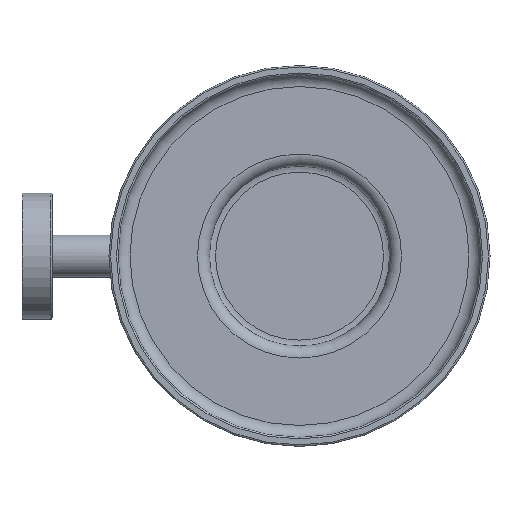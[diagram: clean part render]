
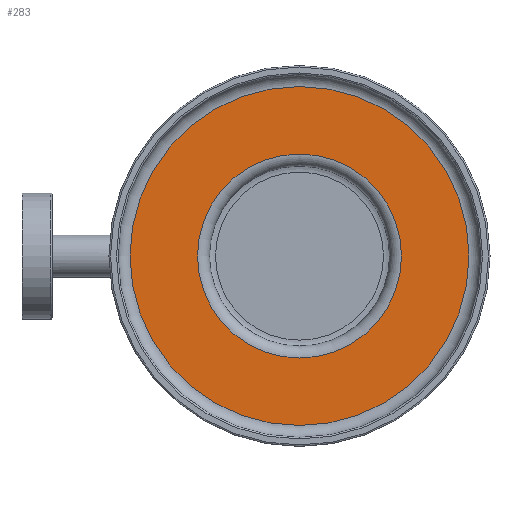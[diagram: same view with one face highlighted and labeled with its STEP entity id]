
A CAD part, top view. The second image highlights one B-rep face of the part: STEP entity #283.
In plain terms, the highlighted planar face has unit normal (0, 0, 1).
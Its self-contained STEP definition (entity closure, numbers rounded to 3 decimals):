
#283=ADVANCED_FACE('',(#533,#535),#537,.T.);
#533=FACE_BOUND('',#534,.T.);
#534=EDGE_LOOP('',(#607));
#535=FACE_BOUND('',#536,.T.);
#536=EDGE_LOOP('',(#608));
#537=PLANE('',#538);
#538=AXIS2_PLACEMENT_3D('',#539,#540,#541);
#539=CARTESIAN_POINT('',(92.5,0.,12.));
#540=DIRECTION('',(0.,0.,1.));
#541=DIRECTION('',(1.,0.,0.));
#607=ORIENTED_EDGE('',*,*,#639,.F.);
#608=ORIENTED_EDGE('',*,*,#640,.T.);
#639=EDGE_CURVE('',#690,#690,#691,.T.);
#640=EDGE_CURVE('',#692,#692,#693,.T.);
#690=VERTEX_POINT('',#888);
#691=CIRCLE('',#889,56.5);
#692=VERTEX_POINT('',#893);
#693=CIRCLE('',#894,34.);
#888=CARTESIAN_POINT('',(149.,0.,12.));
#889=AXIS2_PLACEMENT_3D('',#890,#891,#892);
#890=CARTESIAN_POINT('',(92.5,0.,12.));
#891=DIRECTION('',(0.,0.,-1.));
#892=DIRECTION('',(1.,0.,0.));
#893=CARTESIAN_POINT('',(126.5,0.,12.));
#894=AXIS2_PLACEMENT_3D('',#895,#896,#897);
#895=CARTESIAN_POINT('',(92.5,0.,12.));
#896=DIRECTION('',(0.,0.,-1.));
#897=DIRECTION('',(1.,0.,0.));
